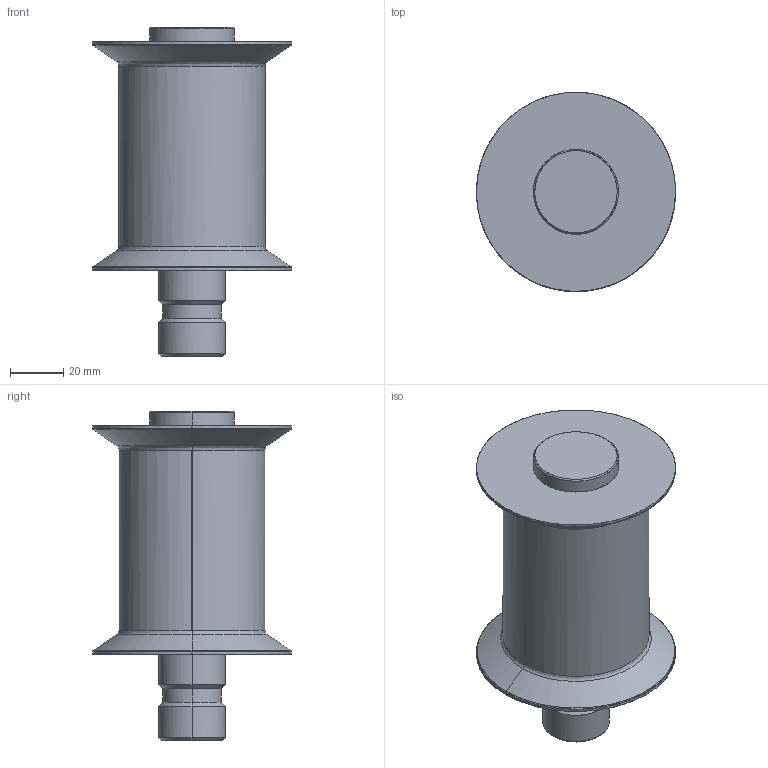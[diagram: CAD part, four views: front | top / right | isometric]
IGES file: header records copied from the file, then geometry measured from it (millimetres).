
Global section: file name: E:\UnigraphicsGraphicData\MISUMI_PRESS-PARTS\IGES\3d_gdrtat55-70_01792_r00.igs; native system: NX V5.0; preprocessor: UGS NX IGES V5.0; author: MISUMI; date: 20110105.160705; units: millimetre
Bounding box: 75 x 75 x 124 mm (x, y, z)
Surface area: 43739.2 mm2 (no closed solid volume)
Topology: 0 solids, 0 shells, 44 faces, 280 edges, 280 vertices
Faces by surface type: bspline 44
